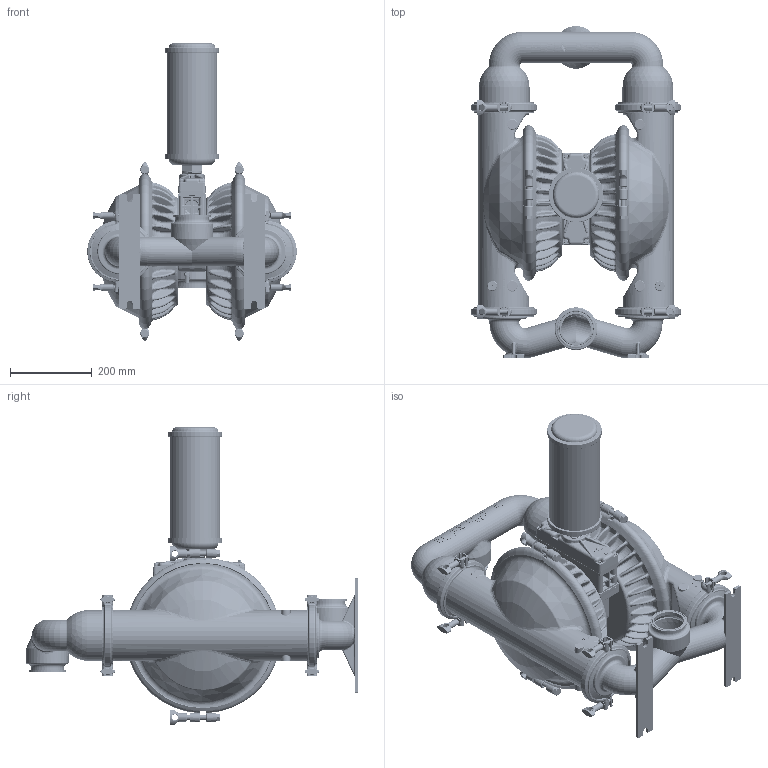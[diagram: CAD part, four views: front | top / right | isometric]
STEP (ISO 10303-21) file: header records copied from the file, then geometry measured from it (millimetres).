
FILE_DESCRIPTION((''),'2;1');
FILE_NAME('PS15_SS_FDA_TOP_SW0002','2017-04-21T',('Nathan.Hale'),(''),'PRO/ENGINEER BY PARAMETRIC TECHNOLOGY CORPORATION, 2015360','PRO/ENGINEER BY PARAMETRIC TECHNOLOGY CORPORATION, 2015360','');
FILE_SCHEMA(('CONFIG_CONTROL_DESIGN'));
Length unit declared in the file: inch
Products named in the file (1): PS15_SS_FDA_TOP_SW0002
Bounding box: 513.04 x 813.3 x 728.08 mm (x, y, z)
Volume: 15483158.7 mm3; surface area: 3354707.7 mm2
Topology: 17 solids, 22 shells, 17677 faces, 46060 edges, 29006 vertices
Faces by surface type: plane 10475, bspline 2837, cylinder 1846, torus 1059, cone 918, sphere 331, extrusion 211
Entity records: 1167359 total; most frequent: CARTESIAN_POINT 757925, ORIENTED_EDGE 92020, DIRECTION 74355, EDGE_CURVE 46010, VERTEX_POINT 29006, VECTOR 28833, LINE 28622, AXIS2_PLACEMENT_3D 22761
